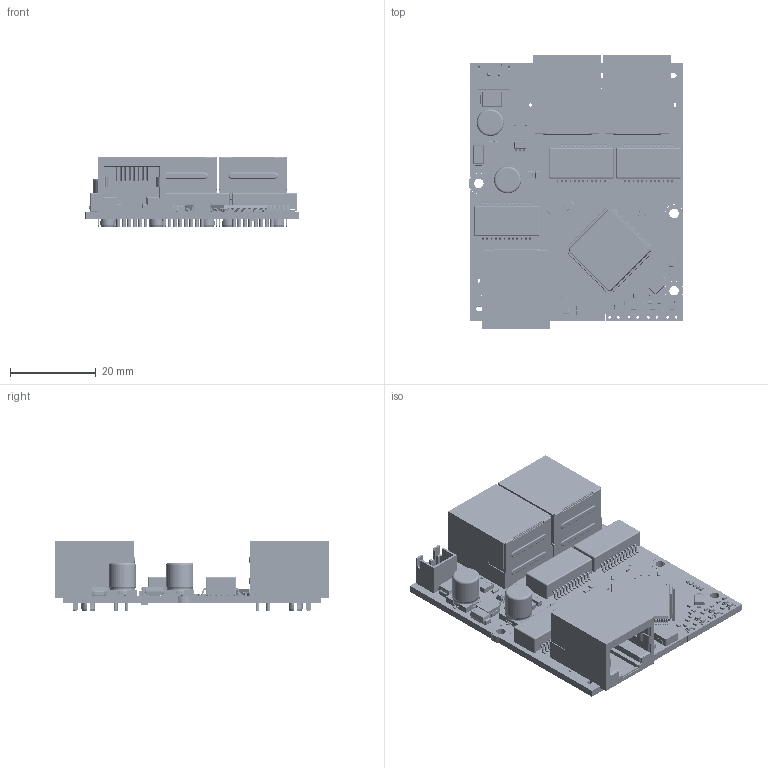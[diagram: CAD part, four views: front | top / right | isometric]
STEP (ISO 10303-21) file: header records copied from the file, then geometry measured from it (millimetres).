
FILE_DESCRIPTION(('Designed by EasyEDA Pro'),'2;1');
FILE_NAME('Open CASCADE Shape Model','2024-01-17T11:44:54',('Author'),( 'Open CASCADE'),'Open CASCADE STEP processor 7.6','Open CASCADE 7.6' ,'Unknown');
FILE_SCHEMA(('AUTOMOTIVE_DESIGN { 1 0 10303 214 1 1 1 1 }'));
Length unit declared in the file: millimetre
Products named in the file (126): PCBModel; Board; C4; 12060; SOLID; C6; C1; C30; C08050; C3; C16; C37; 04020; C39; R10; R11; R12; R13; R15; R16; R17; R18; R19; R2; R204; R38; R5; R63; R72; R73; R75; R9; C100; C04020; C101; C102; C103; C104; C105; C106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
Assembly tree (189 placements, depth 4):
  PCBModel
    Board
    C4
      12060
        SOLID
    C6
      12060
        SOLID
    C1
      12060
        SOLID
    C30
      C08050
        SOLID
    C3
      C08050
        SOLID
    C16
      C08050
        SOLID
    C37
      04020
        SOLID
    C39
      04020
        SOLID
    R10
      04020
        SOLID
    R11
      04020
        SOLID
    R12
      04020
        SOLID
    R13
      04020
        SOLID
    R15
      04020
        SOLID
    R16
      04020
        SOLID
    R17
      04020
        SOLID
    R18
      04020
        SOLID
    R19
      04020
        SOLID
    R2
      04020
        SOLID
    R204
      04020
        SOLID
    R38
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Bounding box: 50.06 x 64.08 x 16.4 mm (x, y, z)
Volume: 15618.3 mm3; surface area: 23233.5 mm2
Topology: 257 solids, 257 shells, 33389 faces, 89431 edges, 58286 vertices
Faces by surface type: plane 19254, bspline 9275, cylinder 4174, sphere 558, torus 116, cone 12
Full cylindrical faces by diameter (mm): 0.6 x8, 0.889 x24, 0.9 x2, 2.1 x3, 2.2 x1, 2.54 x1, 3.35 x6
Entity records: 410693 total; most frequent: CARTESIAN_POINT 102191, ORIENTED_EDGE 53270, DIRECTION 40060, EDGE_CURVE 26635, LINE 18440, VECTOR 18440, VERTEX_POINT 17438, AXIS2_PLACEMENT_3D 10810
